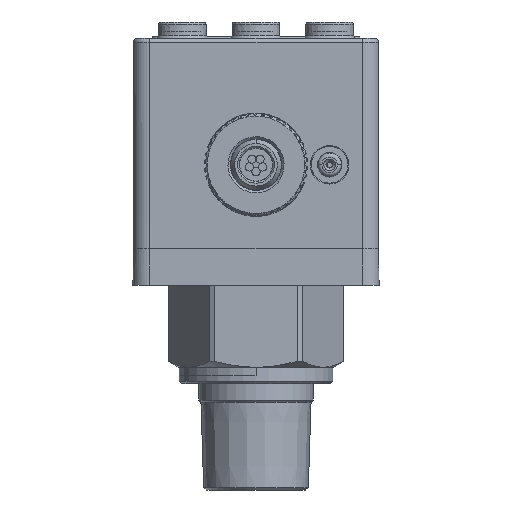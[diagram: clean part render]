
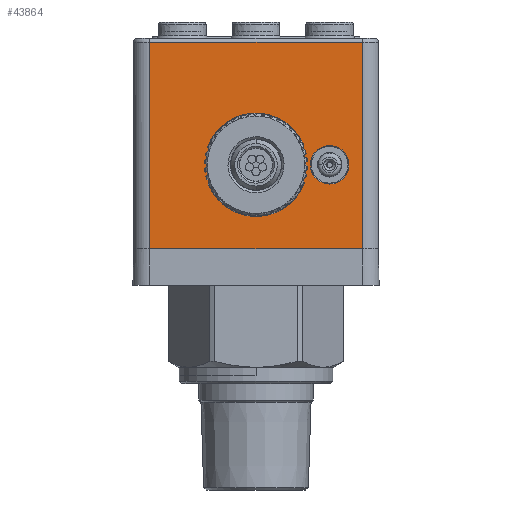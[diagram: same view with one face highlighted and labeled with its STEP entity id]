
A CAD part, front view. The second image highlights one B-rep face of the part: STEP entity #43864.
In plain terms, the highlighted planar face has unit normal (0, -1, 0).
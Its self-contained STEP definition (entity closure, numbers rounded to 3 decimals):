
#2151=CARTESIAN_POINT('',(-4.759,-15.,12.417));
#2152=DIRECTION('',(0.,1.,0.));
#2153=DIRECTION('',(-0.898,0.,-0.44));
#2154=AXIS2_PLACEMENT_3D('',#2151,#2152,#2153);
#2220=DIRECTION('',(0.,0.,-1.));
#2221=VECTOR('',#2220,25.2);
#2222=CARTESIAN_POINT('',(-13.,-15.,29.7));
#2223=LINE('',#2222,#2221);
#2224=DIRECTION('',(1.,0.,0.));
#2225=VECTOR('',#2224,26.);
#2226=CARTESIAN_POINT('',(-13.,-15.,29.7));
#2227=LINE('',#2226,#2225);
#2228=DIRECTION('',(0.,0.,-1.));
#2229=VECTOR('',#2228,25.2);
#2230=CARTESIAN_POINT('',(13.,-15.,29.7));
#2231=LINE('',#2230,#2229);
#2232=CARTESIAN_POINT('',(0.,-15.,14.75));
#2233=DIRECTION('',(0.,-1.,0.));
#2234=DIRECTION('',(-0.898,0.,-0.44));
#2235=AXIS2_PLACEMENT_3D('',#2232,#2233,#2234);
#2237=DIRECTION('',(-0.017,0.,-1.));
#2238=VECTOR('',#2237,2.35);
#2239=CARTESIAN_POINT('',(5.8,-15.,14.75));
#2240=LINE('',#2239,#2238);
#2241=DIRECTION('',(0.017,0.,-1.));
#2242=VECTOR('',#2241,2.35);
#2243=CARTESIAN_POINT('',(5.759,-15.,17.1));
#2244=LINE('',#2243,#2242);
#2245=CARTESIAN_POINT('',(0.,-15.,14.75));
#2246=DIRECTION('',(0.,-1.,0.));
#2247=DIRECTION('',(0.898,0.,0.44));
#2248=AXIS2_PLACEMENT_3D('',#2245,#2246,#2247);
#2250=DIRECTION('',(0.017,0.,1.));
#2251=VECTOR('',#2250,2.35);
#2252=CARTESIAN_POINT('',(-5.8,-15.,14.75));
#2253=LINE('',#2252,#2251);
#2254=DIRECTION('',(-0.017,0.,1.));
#2255=VECTOR('',#2254,2.35);
#2256=CARTESIAN_POINT('',(-5.759,-15.,12.4));
#2257=LINE('',#2256,#2255);
#2258=CARTESIAN_POINT('',(9.,-15.,14.75));
#2259=DIRECTION('',(0.,1.,0.));
#2260=DIRECTION('',(-1.,0.,0.));
#2261=AXIS2_PLACEMENT_3D('',#2258,#2259,#2260);
#2263=CARTESIAN_POINT('',(9.,-15.,14.75));
#2264=DIRECTION('',(0.,1.,0.));
#2265=DIRECTION('',(1.,0.,0.));
#2266=AXIS2_PLACEMENT_3D('',#2263,#2264,#2265);
#2294=DIRECTION('',(1.,0.,0.));
#2295=VECTOR('',#2294,26.);
#2296=CARTESIAN_POINT('',(-13.,-15.,
4.5));
#2297=LINE('',#2296,#2295);
#31608=CARTESIAN_POINT('',(4.759,-15.,12.417));
#31609=DIRECTION('',(0.,1.,0.));
#31610=DIRECTION('',(1.,0.,-0.017));
#31611=AXIS2_PLACEMENT_3D('',#31608,#31609,#31610);
#33823=CARTESIAN_POINT('',(-4.759,-15.,17.083));
#33824=DIRECTION('',(0.,1.,0.));
#33825=DIRECTION('',(-1.,0.,0.017));
#33826=AXIS2_PLACEMENT_3D('',#33823,#33824,#33825);
#34192=CARTESIAN_POINT('',(4.759,-15.,17.083));
#34193=DIRECTION('',(0.,1.,0.));
#34194=DIRECTION('',(0.898,0.,0.44));
#34195=AXIS2_PLACEMENT_3D('',#34192,#34193,#34194);
#38362=CARTESIAN_POINT('',(-13.,-15.,29.7));
#38363=VERTEX_POINT('',#38362);
#38366=CARTESIAN_POINT('',(13.,-15.,29.7));
#38367=VERTEX_POINT('',#38366);
#38538=CARTESIAN_POINT('',(6.643,-15.,14.75));
#38539=CARTESIAN_POINT('',(11.357,-15.,14.75));
#38540=VERTEX_POINT('',#38538);
#38541=VERTEX_POINT('',#38539);
#39034=CARTESIAN_POINT('',(5.759,-15.,17.1));
#39035=CARTESIAN_POINT('',(5.8,-15.,14.75));
#39036=VERTEX_POINT('',#39034);
#39037=VERTEX_POINT('',#39035);
#39038=CARTESIAN_POINT('',(5.759,-15.,12.4));
#39039=VERTEX_POINT('',#39038);
#39040=CARTESIAN_POINT('',(5.657,-15.,17.523));
#39041=VERTEX_POINT('',#39040);
#39042=CARTESIAN_POINT('',(5.657,-15.,11.977));
#39043=VERTEX_POINT('',#39042);
#39053=CARTESIAN_POINT('',(-5.657,-15.,17.523));
#39054=VERTEX_POINT('',#39053);
#39055=CARTESIAN_POINT('',(-5.657,-15.,11.977));
#39056=VERTEX_POINT('',#39055);
#39068=CARTESIAN_POINT('',(-5.759,-15.,12.4));
#39069=CARTESIAN_POINT('',(-5.8,-15.,14.75));
#39070=VERTEX_POINT('',#39068);
#39071=VERTEX_POINT('',#39069);
#39072=CARTESIAN_POINT('',(-5.759,-15.,17.1));
#39073=VERTEX_POINT('',#39072);
#39226=CARTESIAN_POINT('',(-13.,-15.,
4.5));
#39227=CARTESIAN_POINT('',(13.,-15.,
4.5));
#39228=VERTEX_POINT('',#39226);
#39229=VERTEX_POINT('',#39227);
#43825=CARTESIAN_POINT('',(-15.,-15.,2.9));
#43826=DIRECTION('',(0.,-1.,0.));
#43827=DIRECTION('',(1.,0.,0.));
#43828=AXIS2_PLACEMENT_3D('',#43825,#43826,#43827);
#43829=PLANE('',#43828);
#43831=ORIENTED_EDGE('',*,*,#43830,.F.);
#43833=ORIENTED_EDGE('',*,*,#43832,.T.);
#43835=ORIENTED_EDGE('',*,*,#43834,.T.);
#43837=ORIENTED_EDGE('',*,*,#43836,.F.);
#43838=EDGE_LOOP('',(#43831,#43833,#43835,#43837));
#43839=FACE_OUTER_BOUND('',#43838,.F.);
#43840=ORIENTED_EDGE('',*,*,#42975,.T.);
#43842=ORIENTED_EDGE('',*,*,#43841,.F.);
#43844=ORIENTED_EDGE('',*,*,#43843,.F.);
#43846=ORIENTED_EDGE('',*,*,#43845,.F.);
#43848=ORIENTED_EDGE('',*,*,#43847,.F.);
#43850=ORIENTED_EDGE('',*,*,#43849,.T.);
#43852=ORIENTED_EDGE('',*,*,#43851,.F.);
#43853=ORIENTED_EDGE('',*,*,#43806,.F.);
#43854=ORIENTED_EDGE('',*,*,#43779,.F.);
#43855=ORIENTED_EDGE('',*,*,#43760,.F.);
#43856=EDGE_LOOP('',(#43840,#43842,#43844,#43846,#43848,#43850,#43852,#43853,
#43854,#43855));
#43857=FACE_BOUND('',#43856,.F.);
#43859=ORIENTED_EDGE('',*,*,#43858,.F.);
#43861=ORIENTED_EDGE('',*,*,#43860,.F.);
#43862=EDGE_LOOP('',(#43859,#43861));
#43863=FACE_BOUND('',#43862,.F.);
#43864=ADVANCED_FACE('',(#43839,#43857,#43863),#43829,.T.);
#2155=CIRCLE('',#2154,1.);
#2236=CIRCLE('',#2235,6.3);
#2249=CIRCLE('',#2248,6.3);
#2262=CIRCLE('',#2261,2.357);
#2267=CIRCLE('',#2266,2.357);
#31612=CIRCLE('',#31611,1.);
#33827=CIRCLE('',#33826,1.);
#34196=CIRCLE('',#34195,1.);
#42975=EDGE_CURVE('',#39056,#39043,#2236,.T.);
#43760=EDGE_CURVE('',#39056,#39070,#2155,.T.);
#43779=EDGE_CURVE('',#39070,#39071,#2257,.T.);
#43806=EDGE_CURVE('',#39071,#39073,#2253,.T.);
#43830=EDGE_CURVE('',#38363,#39228,#2223,.T.);
#43832=EDGE_CURVE('',#38363,#38367,#2227,.T.);
#43834=EDGE_CURVE('',#38367,#39229,#2231,.T.);
#43836=EDGE_CURVE('',#39228,#39229,#2297,.T.);
#43841=EDGE_CURVE('',#39039,#39043,#31612,.T.);
#43843=EDGE_CURVE('',#39037,#39039,#2240,.T.);
#43845=EDGE_CURVE('',#39036,#39037,#2244,.T.);
#43847=EDGE_CURVE('',#39041,#39036,#34196,.T.);
#43849=EDGE_CURVE('',#39041,#39054,#2249,.T.);
#43851=EDGE_CURVE('',#39073,#39054,#33827,.T.);
#43858=EDGE_CURVE('',#38540,#38541,#2262,.T.);
#43860=EDGE_CURVE('',#38541,#38540,#2267,.T.);
